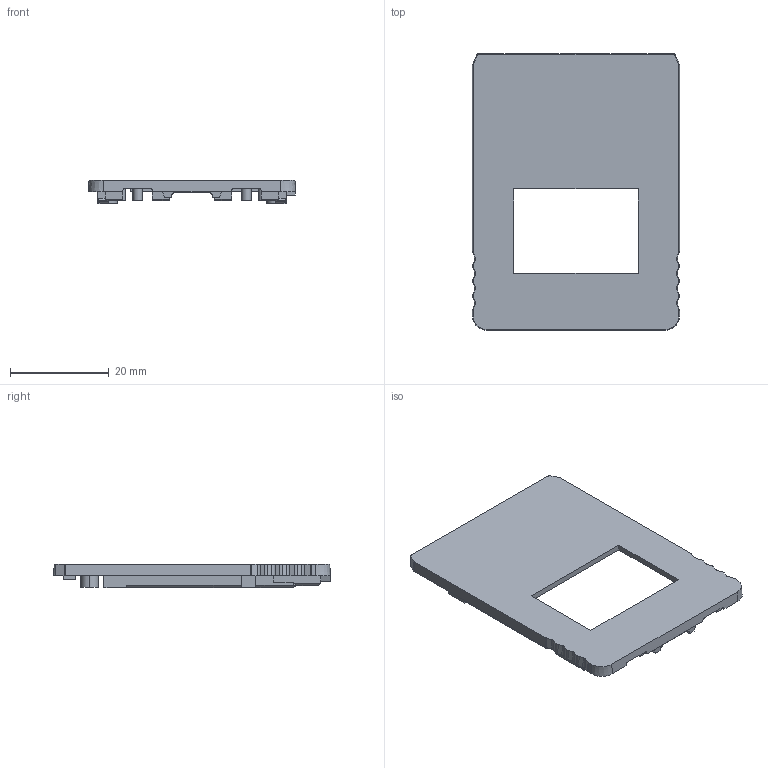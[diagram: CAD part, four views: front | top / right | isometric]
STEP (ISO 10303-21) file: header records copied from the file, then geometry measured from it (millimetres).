
FILE_DESCRIPTION((''),'2;1');
FILE_NAME('KK-02_303_1','2025-02-20T17:25:05',('admin'),(''),'CREO PARAMETRIC BY PTC INC, 2021164','CREO PARAMETRIC BY PTC INC, 2021164','');
FILE_SCHEMA(('AP203_CONFIGURATION_CONTROLLED_3D_DESIGN_OF_MECHANICAL_PARTS_AND_ASSEMBLIES_MIM_LF { 1 0 10303 403 2 1 2 }'));
Length unit declared in the file: millimetre
Products named in the file (1): KK-02_303_1
Bounding box: 41.91 x 56.01 x 4.8 mm (x, y, z)
Volume: 2982 mm3; surface area: 5268.8 mm2
Topology: 1 solids, 1 shells, 280 faces, 807 edges, 532 vertices
Faces by surface type: plane 220, cylinder 54, cone 6
Entity records: 9208 total; most frequent: CARTESIAN_POINT 1821, ORIENTED_EDGE 1614, DIRECTION 1375, EDGE_CURVE 807, VECTOR 663, LINE 663, VERTEX_POINT 532, AXIS2_PLACEMENT_3D 356
